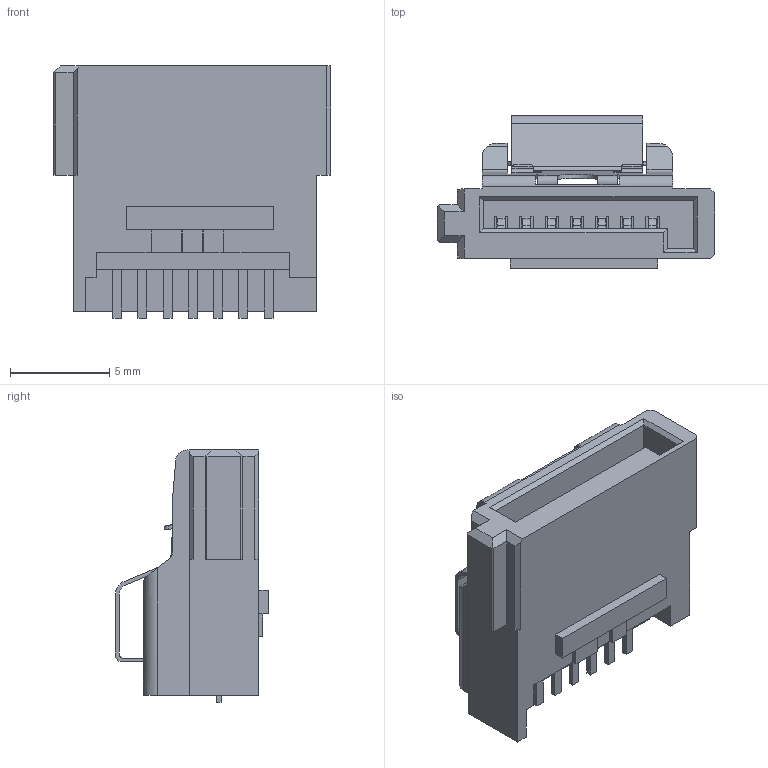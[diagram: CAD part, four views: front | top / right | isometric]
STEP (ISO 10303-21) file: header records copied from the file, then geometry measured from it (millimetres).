
FILE_DESCRIPTION (( 'STEP AP214' ), '1' );
FILE_NAME ('SATA Connector Female MOLEX.STEP', '2019-06-21T21:50:56', ( 'V' ), ( '' ), 'SwSTEP 2.0', 'SolidWorks 2018', '' );
FILE_SCHEMA (( 'AUTOMOTIVE_DESIGN' ));
Length unit declared in the file: millimetre
Products named in the file (1): SATA Connector Female MOLEX
Bounding box: 13.96 x 7.71 x 12.7 mm (x, y, z)
Volume: 449.6 mm3; surface area: 1144.3 mm2
Topology: 1 solids, 1 shells, 513 faces, 1492 edges, 982 vertices
Faces by surface type: plane 373, cylinder 140
Entity records: 21346 total; most frequent: CARTESIAN_POINT 4389, ORIENTED_EDGE 2984, DIRECTION 2530, EDGE_CURVE 1492, LINE 1202, VECTOR 1202, VERTEX_POINT 982, AXIS2_PLACEMENT_3D 664
